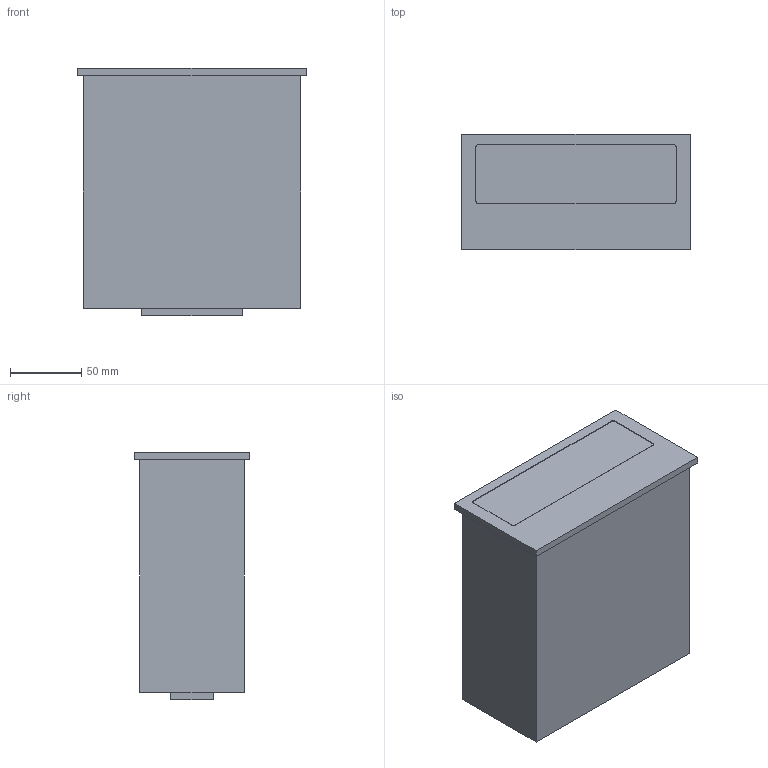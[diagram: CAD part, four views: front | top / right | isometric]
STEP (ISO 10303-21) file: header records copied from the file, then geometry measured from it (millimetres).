
FILE_DESCRIPTION((''),'2;1');
FILE_NAME('PRT0075','2025-12-30T09:29:07',('28740194'),(''),'CREO PARAMETRIC BY PTC INC, 2024063','CREO PARAMETRIC BY PTC INC, 2024063','');
FILE_SCHEMA(('CONFIG_CONTROL_DESIGN'));
Length unit declared in the file: millimetre
Products named in the file (1): PRT0075
Bounding box: 160 x 81 x 173 mm (x, y, z)
Volume: 1881386 mm3; surface area: 103323.3 mm2
Topology: 1 solids, 1 shells, 480 faces, 1362 edges, 908 vertices
Faces by surface type: plane 476, cylinder 4
Entity records: 15292 total; most frequent: CARTESIAN_POINT 2750, ORIENTED_EDGE 2724, DIRECTION 2330, EDGE_CURVE 1362, VECTOR 1354, LINE 1354, VERTEX_POINT 908, EDGE_LOOP 504
